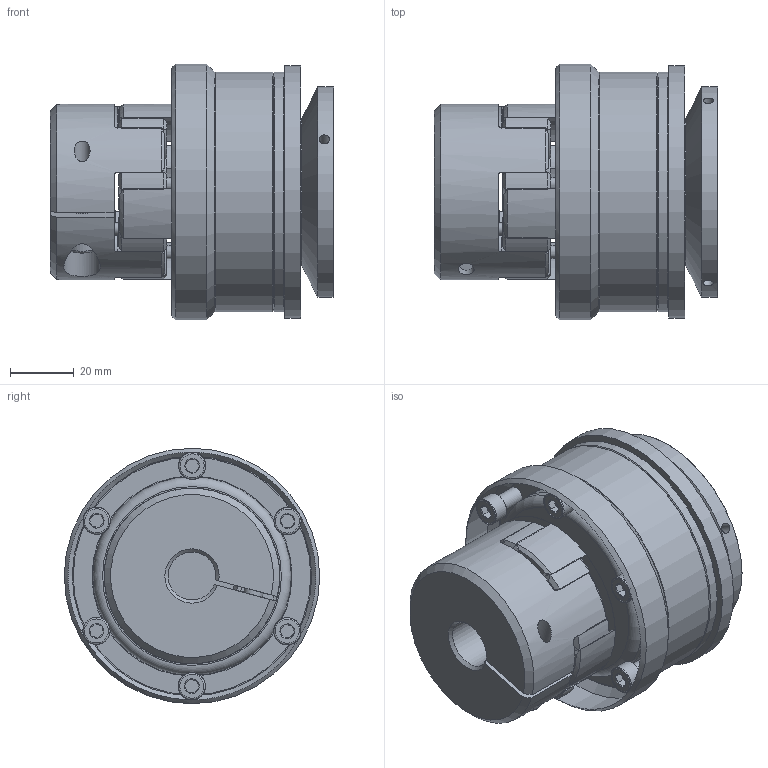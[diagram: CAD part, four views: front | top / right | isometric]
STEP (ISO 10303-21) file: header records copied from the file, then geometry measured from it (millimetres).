
FILE_DESCRIPTION( ( 'Unknown' ), '1' );
FILE_NAME( 'C:/Users/skarpstein/Desktop/Korrigierte 3D Modelle/KBK-E-KP/KBK EKP-24-77.stp', 'Unknown', ( 'Unknown' ), ( 'Unknown' ), 'PSStep 16.0.42', 'Unknown', ' ' );
FILE_SCHEMA( ( 'AUTOMOTIVE_DESIGN { 1 0 10303 214 1 1 1 1 }' ) );
Length unit declared in the file: millimetre
Products named in the file (26): ball_bearing_-_6007_0_03; ball_bearing_-_6007_0_02; ball_bearing_-_6007_0_01; Stellring 60; ISO EN DIN 4762_M5x20; Elastomerflansch 24; Assem2; Flansch 60; KBK L-P-60 Grundkörper; Zahnkranz_24_Standard; a_35; Druckring 60; Assem1; KBE 2C - 24_Nabe; ISO EN DIN 4762 M6x18
Assembly tree (30 placements, depth 4):
  Assem1
    KBE 2C - 24_Nabe
    ISO EN DIN 4762 M6x18
    KBK L-P-60 Grundkörper
      KBK L-P-60 Grundkörper
    Stellring 60
      Stellring 60
    Druckring 60
      Druckring 60
    Flansch 60
      Flansch 60
    a_35
      a_35
    Zahnkranz_24_Standard
      Zahnkranz_24_Standard
    ISO EN DIN 4762_M5x20  x6
      ISO EN DIN 4762_M5x20
    Elastomerflansch 24
      Elastomerflansch 24
    Assem2
      ball_bearing_-_6007_0_01
        ball_bearing_-_6007_0_01
      ball_bearing_-_6007_0_02
        ball_bearing_-_6007_0_02
      ball_bearing_-_6007_0_03
        ball_bearing_-_6007_0_03
Bounding box: 88.8 x 80 x 80 mm (x, y, z)
Volume: 256839.5 mm3; surface area: 103751 mm2
Topology: 18 solids, 18 shells, 506 faces, 1075 edges, 644 vertices
Faces by surface type: cone 168, plane 159, cylinder 145, torus 34
Full cylindrical faces by diameter (mm): 2.5 x2, 3.242 x3, 4 x11, 4.134 x6, 5 x8, 5.2 x6, 6 x2, 6.5 x1, 8.5 x12, 10 x1, 11.4 x1, 27 x2, 30 x1, 33 x1, 35 x3, 43.7 x2, 44 x1, 46 x2, 46.5 x1, 53.6 x2, 55 x1, 61.3 x1, 62 x3, 66 x1, 75 x2, 79 x1, 80 x1
Entity records: 14866 total; most frequent: CARTESIAN_POINT 2787, DIRECTION 1926, ORIENTED_EDGE 1504, AXIS2_PLACEMENT_3D 894, EDGE_CURVE 752, EDGE_LOOP 573, VERTEX_POINT 511, FACE_OUTER_BOUND 482
